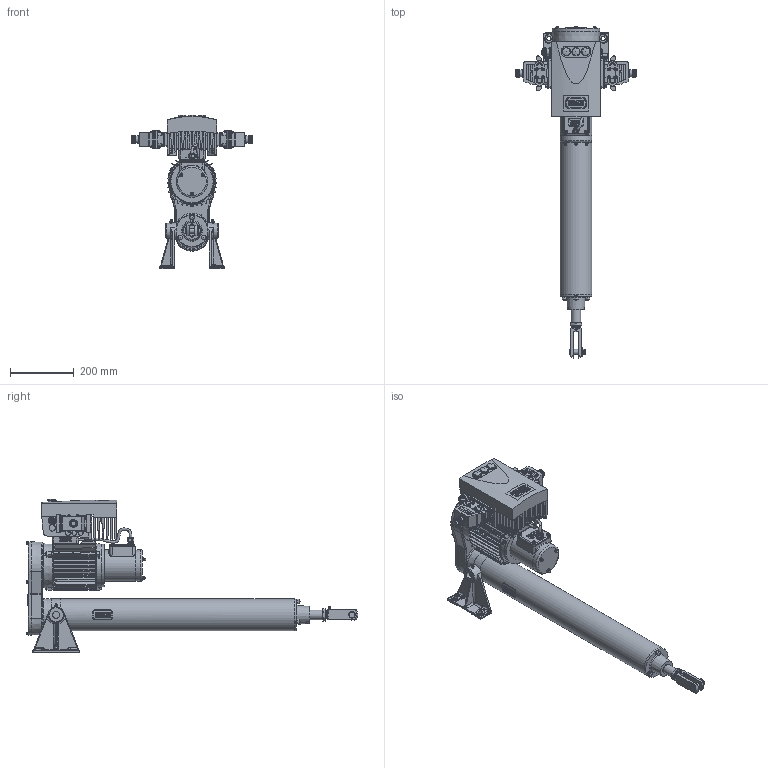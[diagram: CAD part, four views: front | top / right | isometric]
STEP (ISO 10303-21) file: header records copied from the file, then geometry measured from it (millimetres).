
FILE_DESCRIPTION(/* description */ ('Unknown'),/* implementation_level */ '2;1');
FILE_NAME(/* name */ 'T1C4-RM-0600-160-254-3',/* time_stamp */ '2025-07-21T11:12:03+02:00',/* author */ ('Unknown'),/* organization */ ('Unknown'),/* preprocessor_version */ 'ST-DEVELOPER v19.4',/* originating_system */ 'Solid Edge',/* authorisation */ 'Unknown');
FILE_SCHEMA (('MODEL_BASED_INTEGRATED_MANUFACTURING_SCHEMA','AUTOMOTIVE_DESIGN {1 0 10303 214 3 1 1}'));
Length unit declared in the file: millimetre
Products named in the file (16): 160-254-3; 03.01-04; 02.14-04-0600; 03.02-03-04_kpl; 02.01-04_kpl; 01.01-04_kpl_Gabelkopf; 03.65-04_kpl; 01.15-04-0600; Steckverbinder_kpl; 4fach-LED; 160-257-8_1; 12.00-04; 80K-B14_ohne; Adapter-FU-BG-1-2; FU-BG-1; Gehaeuse_A2
Assembly tree (16 placements, depth 2):
  160-254-3
    03.01-04
    02.14-04-0600
    03.02-03-04_kpl
    02.01-04_kpl
    01.01-04_kpl_Gabelkopf
    03.65-04_kpl
    01.15-04-0600
    Steckverbinder_kpl  x2
    4fach-LED
    160-257-8_1
    12.00-04
    80K-B14_ohne
    Adapter-FU-BG-1-2
    FU-BG-1
    Gehaeuse_A2
Bounding box: 380.9 x 1043.6 x 484.25 mm (x, y, z)
Volume: 16541374.5 mm3; surface area: 1345725.2 mm2
Topology: 18 solids, 27 shells, 3827 faces, 9645 edges, 6183 vertices
Faces by surface type: plane 2142, cylinder 1180, cone 228, bspline 124, torus 109, sphere 44
Full cylindrical faces by diameter (mm): 1 x28, 3 x6, 3.5 x1, 4 x4, 4.02 x1, 5 x40, 5.3 x2, 5.4 x1, 5.5 x1, 5.8 x6, 7 x8, 7.5 x4, 7.6 x8, 8 x2, 8.5 x10, 9.1 x3, 9.2 x1, 10 x5, 10.16 x1, 13.3 x3, 13.5 x4, 13.602 x1, 13.8 x3, 14.2 x3, 15 x6, 16.002 x4, 17 x1, 19.05 x1, 20 x4, 21.001 x1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
Entity records: 128477 total; most frequent: CARTESIAN_POINT 23675, DIRECTION 16760, ORIENTED_EDGE 16472, EDGE_CURVE 8236, AXIS2_PLACEMENT_3D 6128, VERTEX_POINT 5426, LINE 4504, VECTOR 4504
